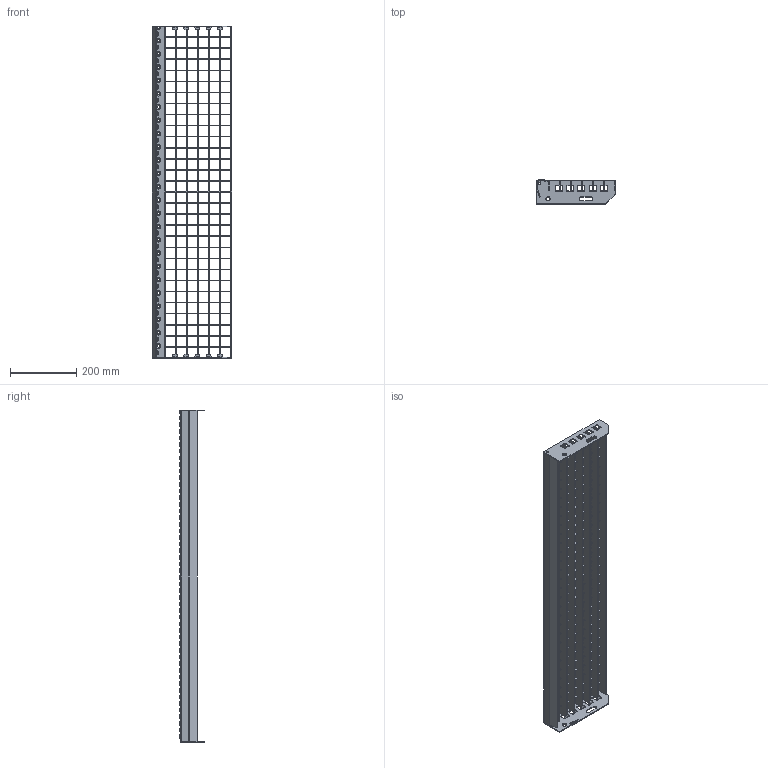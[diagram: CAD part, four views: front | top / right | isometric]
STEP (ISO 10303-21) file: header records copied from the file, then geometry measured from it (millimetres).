
FILE_DESCRIPTION(/* description */ ('','CAx-IF Rec.Pracs.---Representation and Presentation of Product Manufacturing Information (PMI)---3.8---2014-02-18'),/* implementation_level */ '2;1');
FILE_NAME(/* name */ 'C:\Users\phaverkotte\Desktop\Lager STEP\P-Stufen\PX3 330-33-3\PX3 330-33-3 1000mm x 240mm.stp',/* time_stamp */ '2018-03-24T10:16:04+01:00',/* author */ ('phaverkotte'),/* organization */ (''),/* preprocessor_version */ 'ST-DEVELOPER v16.13',/* originating_system */ 'Autodesk Inventor 2018',/* authorisation */ '');
FILE_SCHEMA (('AP242_MANAGED_MODEL_BASED_3D_ENGINEERING_MIM_LF { 1 0 10303 442 1 1 4 }'));
Length unit declared in the file: millimetre
Products named in the file (8): Schodišťový stupeň přím
ý lisovaný; Seitenplatte ausgeklinkt links; Seitenplatte 240 ausgeklinkt extern rechts; Schod nášlap; P Rošt schodu; Querstab; P Nosný pás; Hinteres Flach
Assembly tree (40 placements, depth 3):
  Schodišťový stupeň přím
ý lisovaný
    Seitenplatte ausgeklinkt links
    Seitenplatte 240 ausgeklinkt extern rechts
    Schod nášlap
    P Rošt schodu
      Querstab  x29
      P Nosný pás  x6
      Hinteres Flach
Bounding box: 237.98 x 72.75 x 1000 mm (x, y, z)
Volume: 948144.3 mm3; surface area: 806950 mm2
Topology: 39 solids, 39 shells, 3207 faces, 9228 edges, 6116 vertices
Faces by surface type: plane 2022, cylinder 965, cone 150, torus 50, bspline 20
Full cylindrical faces by diameter (mm): 8 x2, 13 x2
Entity records: 31340 total; most frequent: CARTESIAN_POINT 8259, DIRECTION 4671, ORIENTED_EDGE 4442, EDGE_CURVE 2221, AXIS2_PLACEMENT_3D 1563, LINE 1545, VECTOR 1545, VERTEX_POINT 1545
